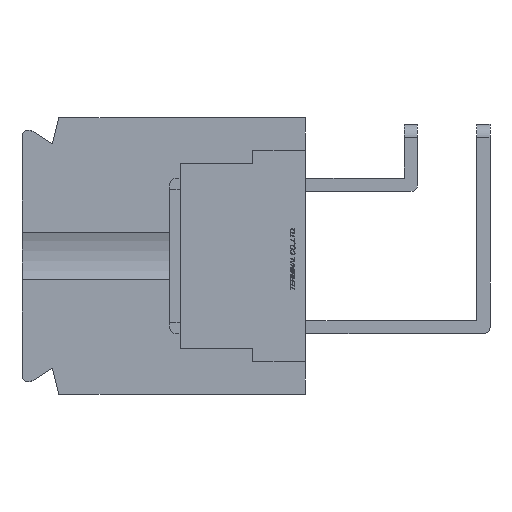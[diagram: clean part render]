
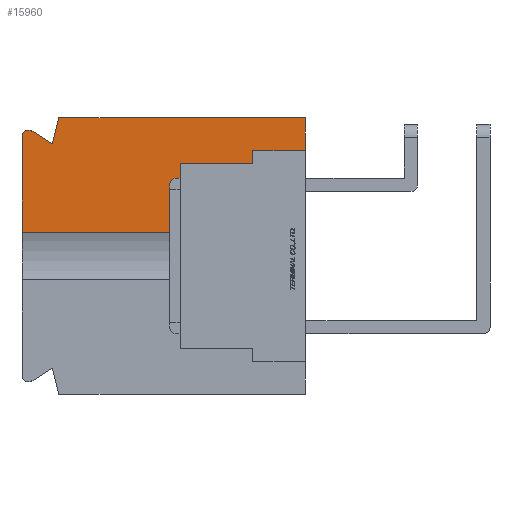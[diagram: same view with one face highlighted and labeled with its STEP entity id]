
A CAD part, left-side view. The second image highlights one B-rep face of the part: STEP entity #15960.
In plain terms, the highlighted planar face has unit normal (-1, 0, 0).
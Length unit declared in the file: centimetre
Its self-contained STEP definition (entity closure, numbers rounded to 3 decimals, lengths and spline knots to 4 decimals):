
#759=CIRCLE('',#26865,0.05);
#1005=VERTEX_POINT('',#20884);
#1006=VERTEX_POINT('',#20886);
#1620=VERTEX_POINT('',#22812);
#1621=VERTEX_POINT('',#22814);
#1626=VERTEX_POINT('',#22825);
#1628=VERTEX_POINT('',#22831);
#1630=VERTEX_POINT('',#22837);
#1631=VERTEX_POINT('',#22844);
#1632=VERTEX_POINT('',#22846);
#1633=VERTEX_POINT('',#22848);
#1634=VERTEX_POINT('',#22850);
#2670=VECTOR('',#17466,1.);
#3368=VECTOR('',#18906,1.);
#3373=VECTOR('',#18920,1.);
#3376=VECTOR('',#18924,1.);
#3379=VECTOR('',#18928,1.);
#3380=VECTOR('',#18930,1.);
#3381=VECTOR('',#18931,1.);
#3382=VECTOR('',#18932,1.);
#3383=VECTOR('',#18933,1.);
#3384=VECTOR('',#18934,1.);
#4571=LINE('',#20885,#2670);
#5269=LINE('',#22813,#3368);
#5274=LINE('',#22830,#3373);
#5277=LINE('',#22836,#3376);
#5280=LINE('',#22841,#3379);
#5281=LINE('',#22843,#3380);
#5282=LINE('',#22845,#3381);
#5283=LINE('',#22847,#3382);
#5284=LINE('',#22849,#3383);
#5285=LINE('',#22851,#3384);
#6510=EDGE_CURVE('',#1005,#1006,#4571,.T.);
#7435=EDGE_CURVE('',#1620,#1621,#5269,.T.);
#7442=EDGE_CURVE('',#1621,#1626,#759,.T.);
#7445=EDGE_CURVE('',#1626,#1628,#5274,.T.);
#7448=EDGE_CURVE('',#1628,#1630,#5277,.T.);
#7451=EDGE_CURVE('',#1630,#1005,#5280,.T.);
#7452=EDGE_CURVE('',#1631,#1006,#5281,.T.);
#7453=EDGE_CURVE('',#1620,#1632,#5282,.T.);
#7454=EDGE_CURVE('',#1632,#1633,#5283,.T.);
#7455=EDGE_CURVE('',#1633,#1634,#5284,.T.);
#7456=EDGE_CURVE('',#1634,#1631,#5285,.T.);
#10986=ORIENTED_EDGE('',*,*,#7452,.T.);
#10987=ORIENTED_EDGE('',*,*,#6510,.F.);
#10988=ORIENTED_EDGE('',*,*,#7451,.F.);
#10989=ORIENTED_EDGE('',*,*,#7448,.F.);
#10990=ORIENTED_EDGE('',*,*,#7445,.F.);
#10991=ORIENTED_EDGE('',*,*,#7442,.F.);
#10992=ORIENTED_EDGE('',*,*,#7435,.F.);
#10993=ORIENTED_EDGE('',*,*,#7453,.T.);
#10994=ORIENTED_EDGE('',*,*,#7454,.T.);
#10995=ORIENTED_EDGE('',*,*,#7455,.T.);
#10996=ORIENTED_EDGE('',*,*,#7456,.T.);
#14012=EDGE_LOOP('',(#10986,#10987,#10988,#10989,#10990,#10991,#10992,#10993,
#10994,#10995,#10996));
#15010=FACE_BOUND('',#14012,.T.);
#15960=ADVANCED_FACE('',(#15010),#16750,.F.);
#16750=PLANE('',#26869);
#17466=DIRECTION('',(0.,0.,-1.));
#18906=DIRECTION('',(0.,0.,1.));
#18915=DIRECTION('',(1.,0.,0.));
#18916=DIRECTION('',(0.,0.,-0.05));
#18920=DIRECTION('',(0.,-0.844,-0.536));
#18924=DIRECTION('',(0.,-0.243,0.97));
#18928=DIRECTION('',(0.,-1.,0.));
#18929=DIRECTION('',(1.,0.,0.));
#18930=DIRECTION('',(0.,-1.,0.));
#18931=DIRECTION('',(0.,-1.,0.));
#18932=DIRECTION('',(0.,0.,1.));
#18933=DIRECTION('',(0.,-1.,0.));
#18934=DIRECTION('',(0.,0.,1.));
#20884=CARTESIAN_POINT('',(-1.1,0.,1.05));
#20885=CARTESIAN_POINT('',(-1.1,0.,1.05));
#20886=CARTESIAN_POINT('',(-1.1,0.,0.8));
#22812=CARTESIAN_POINT('',(-1.1,2.15,0.1809));
#22813=CARTESIAN_POINT('',(-1.1,2.15,-0.905));
#22814=CARTESIAN_POINT('',(-1.1,2.15,0.905));
#22824=CARTESIAN_POINT('',(-1.1,2.1,0.905));
#22825=CARTESIAN_POINT('',(-1.1,2.0742,0.9478));
#22830=CARTESIAN_POINT('',(-1.1,2.0742,0.9478));
#22831=CARTESIAN_POINT('',(-1.1,1.92,0.85));
#22836=CARTESIAN_POINT('',(-1.1,1.92,0.85));
#22837=CARTESIAN_POINT('',(-1.1,1.87,1.05));
#22841=CARTESIAN_POINT('',(-1.1,1.87,1.05));
#22842=CARTESIAN_POINT('',(-1.1,1.082,0.));
#22843=CARTESIAN_POINT('',(-1.1,0.641,0.8));
#22844=CARTESIAN_POINT('',(-1.1,0.4,0.8));
#22845=CARTESIAN_POINT('',(-1.1,1.55,0.1809));
#22846=CARTESIAN_POINT('',(-1.1,0.95,0.1809));
#22847=CARTESIAN_POINT('',(-1.1,0.95,0.));
#22848=CARTESIAN_POINT('',(-1.1,0.95,0.7));
#22849=CARTESIAN_POINT('',(-1.1,0.8785,0.7));
#22850=CARTESIAN_POINT('',(-1.1,0.4,0.7));
#22851=CARTESIAN_POINT('',(-1.1,0.4,0.375));
#26865=AXIS2_PLACEMENT_3D('',#22824,#18915,#18916);
#26869=AXIS2_PLACEMENT_3D('',#22842,#18929,$);
